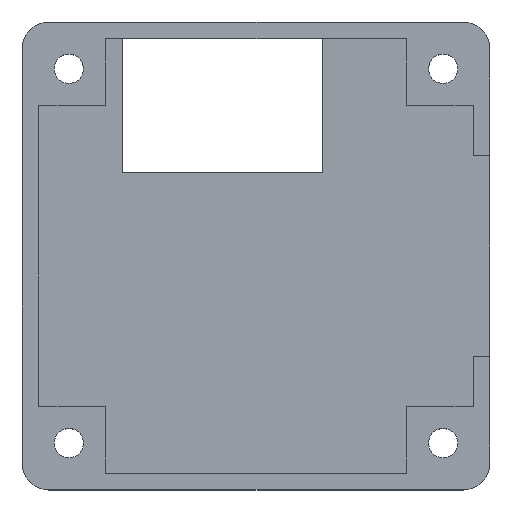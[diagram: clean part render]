
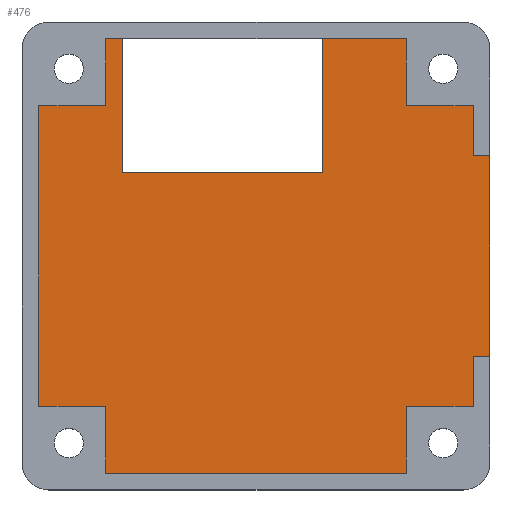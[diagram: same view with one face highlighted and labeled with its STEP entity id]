
A CAD part, top view. The second image highlights one B-rep face of the part: STEP entity #476.
In plain terms, the highlighted planar face has unit normal (0, 0, 1).
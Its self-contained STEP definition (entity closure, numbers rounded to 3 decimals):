
#12 = ORIENTED_EDGE ( 'NONE', *, *, #1660, .F. ) ;
#23 = CARTESIAN_POINT ( 'NONE',  ( 0., 18.11, 1. ) ) ;
#35 = CARTESIAN_POINT ( 'NONE',  ( -21.52, 0., 1. ) ) ;
#42 = VECTOR ( 'NONE', #745, 1000. ) ;
#44 = VECTOR ( 'NONE', #769, 1000. ) ;
#52 = LINE ( 'NONE', #346, #902 ) ;
#56 = EDGE_CURVE ( 'NONE', #327, #572, #345, .T. ) ;
#60 = DIRECTION ( 'NONE',  ( 0., 1., 0. ) ) ;
#63 = CARTESIAN_POINT ( 'NONE',  ( 5.98, 14.36, 1. ) ) ;
#95 = VECTOR ( 'NONE', #244, 1000. ) ;
#128 = EDGE_CURVE ( 'NONE', #684, #622, #814, .T. ) ;
#138 = VERTEX_POINT ( 'NONE', #567 ) ;
#145 = ORIENTED_EDGE ( 'NONE', *, *, #1729, .T. ) ;
#165 = LINE ( 'NONE', #1646, #1333 ) ;
#167 = LINE ( 'NONE', #35, #772 ) ;
#181 = ORIENTED_EDGE ( 'NONE', *, *, #218, .T. ) ;
#203 = PLANE ( 'NONE',  #1328 ) ;
#218 = EDGE_CURVE ( 'NONE', #1214, #1615, #1270, .T. ) ;
#230 = CARTESIAN_POINT ( 'NONE',  ( -5.27, 0., 1. ) ) ;
#244 = DIRECTION ( 'NONE',  ( 1., 0., 0. ) ) ;
#245 = ORIENTED_EDGE ( 'NONE', *, *, #810, .F. ) ;
#247 = CARTESIAN_POINT ( 'NONE',  ( -5.27, 23.11, 1. ) ) ;
#260 = CARTESIAN_POINT ( 'NONE',  ( 0., -4.39, 1. ) ) ;
#262 = VERTEX_POINT ( 'NONE', #63 ) ;
#280 = EDGE_CURVE ( 'NONE', #262, #572, #1258, .T. ) ;
#281 = DIRECTION ( 'NONE',  ( 1., 0., 0. ) ) ;
#299 = CARTESIAN_POINT ( 'NONE',  ( 5.98, 0., 1. ) ) ;
#327 = VERTEX_POINT ( 'NONE', #540 ) ;
#345 = LINE ( 'NONE', #895, #755 ) ;
#346 = CARTESIAN_POINT ( 'NONE',  ( -26.52, 0., 1. ) ) ;
#369 = ORIENTED_EDGE ( 'NONE', *, *, #651, .T. ) ;
#370 = DIRECTION ( 'NONE',  ( 0., 1., 0. ) ) ;
#374 = ORIENTED_EDGE ( 'NONE', *, *, #1060, .F. ) ;
#376 = CARTESIAN_POINT ( 'NONE',  ( 5.98, 0., 1. ) ) ;
#388 = DIRECTION ( 'NONE',  ( -1., 0., 0. ) ) ;
#396 = VERTEX_POINT ( 'NONE', #247 ) ;
#406 = VECTOR ( 'NONE', #418, 1000. ) ;
#418 = DIRECTION ( 'NONE',  ( 0., 1., 0. ) ) ;
#426 = ORIENTED_EDGE ( 'NONE', *, *, #510, .F. ) ;
#428 = CARTESIAN_POINT ( 'NONE',  ( 0.98, -9.39, 1. ) ) ;
#451 = CARTESIAN_POINT ( 'NONE',  ( 0.98, 0., 1. ) ) ;
#476 = ADVANCED_FACE ( 'NONE', ( #1295 ), #203, .T. ) ;
#480 = VERTEX_POINT ( 'NONE', #1570 ) ;
#484 = CARTESIAN_POINT ( 'NONE',  ( 0., 0., 1. ) ) ;
#490 = VECTOR ( 'NONE', #1504, 1000. ) ;
#495 = CARTESIAN_POINT ( 'NONE',  ( -26.52, 18.11, 1. ) ) ;
#510 = EDGE_CURVE ( 'NONE', #1694, #560, #1033, .T. ) ;
#533 = CARTESIAN_POINT ( 'NONE',  ( -21.52, -9.39, 1. ) ) ;
#540 = CARTESIAN_POINT ( 'NONE',  ( 7.23, -0.64, 1. ) ) ;
#550 = DIRECTION ( 'NONE',  ( 1., 0., 0. ) ) ;
#560 = VERTEX_POINT ( 'NONE', #1237 ) ;
#567 = CARTESIAN_POINT ( 'NONE',  ( 5.98, 18.11, 1. ) ) ;
#572 = VERTEX_POINT ( 'NONE', #1406 ) ;
#622 = VERTEX_POINT ( 'NONE', #1276 ) ;
#646 = ORIENTED_EDGE ( 'NONE', *, *, #1755, .T. ) ;
#649 = EDGE_CURVE ( 'NONE', #965, #622, #167, .T. ) ;
#651 = EDGE_CURVE ( 'NONE', #1603, #1214, #734, .T. ) ;
#660 = VERTEX_POINT ( 'NONE', #1371 ) ;
#679 = CARTESIAN_POINT ( 'NONE',  ( 5.98, -4.39, 1. ) ) ;
#684 = VERTEX_POINT ( 'NONE', #495 ) ;
#698 = LINE ( 'NONE', #299, #406 ) ;
#717 = ORIENTED_EDGE ( 'NONE', *, *, #780, .F. ) ;
#728 = DIRECTION ( 'NONE',  ( 0., 1., 0. ) ) ;
#733 = VECTOR ( 'NONE', #1146, 1000. ) ;
#734 = LINE ( 'NONE', #1288, #733 ) ;
#745 = DIRECTION ( 'NONE',  ( 0., -1., 0. ) ) ;
#747 = VERTEX_POINT ( 'NONE', #1062 ) ;
#755 = VECTOR ( 'NONE', #1436, 1000. ) ;
#761 = LINE ( 'NONE', #376, #1421 ) ;
#762 = EDGE_CURVE ( 'NONE', #262, #138, #761, .T. ) ;
#764 = DIRECTION ( 'NONE',  ( 1., 0., 0. ) ) ;
#765 = VERTEX_POINT ( 'NONE', #1317 ) ;
#769 = DIRECTION ( 'NONE',  ( 0., -1., 0. ) ) ;
#770 = EDGE_CURVE ( 'NONE', #396, #836, #1712, .T. ) ;
#772 = VECTOR ( 'NONE', #1395, 1000. ) ;
#780 = EDGE_CURVE ( 'NONE', #1603, #1415, #1049, .T. ) ;
#809 = DIRECTION ( 'NONE',  ( 1., 0., 0. ) ) ;
#810 = EDGE_CURVE ( 'NONE', #660, #747, #1728, .T. ) ;
#814 = LINE ( 'NONE', #23, #1676 ) ;
#833 = EDGE_CURVE ( 'NONE', #765, #327, #938, .T. ) ;
#836 = VERTEX_POINT ( 'NONE', #973 ) ;
#873 = CARTESIAN_POINT ( 'NONE',  ( -21.52, -4.39, 1. ) ) ;
#879 = CARTESIAN_POINT ( 'NONE',  ( 3.83, 14.36, 1. ) ) ;
#895 = CARTESIAN_POINT ( 'NONE',  ( 7.23, -0.64, 1. ) ) ;
#902 = VECTOR ( 'NONE', #60, 1000. ) ;
#918 = DIRECTION ( 'NONE',  ( 0., -1., 0. ) ) ;
#929 = VECTOR ( 'NONE', #388, 1000. ) ;
#931 = LINE ( 'NONE', #1474, #95 ) ;
#937 = ORIENTED_EDGE ( 'NONE', *, *, #649, .T. ) ;
#938 = LINE ( 'NONE', #1624, #490 ) ;
#965 = VERTEX_POINT ( 'NONE', #1648 ) ;
#973 = CARTESIAN_POINT ( 'NONE',  ( -5.27, 13.11, 1. ) ) ;
#977 = ORIENTED_EDGE ( 'NONE', *, *, #1703, .F. ) ;
#986 = LINE ( 'NONE', #1263, #1242 ) ;
#994 = VECTOR ( 'NONE', #281, 1000. ) ;
#1022 = ORIENTED_EDGE ( 'NONE', *, *, #1730, .T. ) ;
#1033 = LINE ( 'NONE', #1433, #42 ) ;
#1049 = LINE ( 'NONE', #1587, #1561 ) ;
#1059 = LINE ( 'NONE', #260, #929 ) ;
#1060 = EDGE_CURVE ( 'NONE', #480, #684, #52, .T. ) ;
#1062 = CARTESIAN_POINT ( 'NONE',  ( -20.27, 13.11, 1. ) ) ;
#1085 = ORIENTED_EDGE ( 'NONE', *, *, #280, .F. ) ;
#1102 = LINE ( 'NONE', #1368, #994 ) ;
#1121 = ORIENTED_EDGE ( 'NONE', *, *, #833, .T. ) ;
#1146 = DIRECTION ( 'NONE',  ( 1., 0., 0. ) ) ;
#1147 = DIRECTION ( 'NONE',  ( 1., 0., 0. ) ) ;
#1183 = DIRECTION ( 'NONE',  ( 0., 1., 0. ) ) ;
#1214 = VERTEX_POINT ( 'NONE', #428 ) ;
#1232 = EDGE_CURVE ( 'NONE', #396, #1694, #1102, .T. ) ;
#1237 = CARTESIAN_POINT ( 'NONE',  ( 0.98, 18.11, 1. ) ) ;
#1242 = VECTOR ( 'NONE', #1393, 1000. ) ;
#1258 = LINE ( 'NONE', #879, #1634 ) ;
#1263 = CARTESIAN_POINT ( 'NONE',  ( 0., 18.11, 1. ) ) ;
#1270 = LINE ( 'NONE', #451, #1724 ) ;
#1276 = CARTESIAN_POINT ( 'NONE',  ( -21.52, 18.11, 1. ) ) ;
#1277 = VERTEX_POINT ( 'NONE', #679 ) ;
#1288 = CARTESIAN_POINT ( 'NONE',  ( 0., -9.39, 1. ) ) ;
#1295 = FACE_OUTER_BOUND ( 'NONE', #1578, .T. ) ;
#1317 = CARTESIAN_POINT ( 'NONE',  ( 5.98, -0.64, 1. ) ) ;
#1328 = AXIS2_PLACEMENT_3D ( 'NONE', #484, #1583, #764 ) ;
#1333 = VECTOR ( 'NONE', #550, 1000. ) ;
#1368 = CARTESIAN_POINT ( 'NONE',  ( 0., 23.11, 1. ) ) ;
#1371 = CARTESIAN_POINT ( 'NONE',  ( -20.27, 23.11, 1. ) ) ;
#1393 = DIRECTION ( 'NONE',  ( -1., 0., 0. ) ) ;
#1395 = DIRECTION ( 'NONE',  ( 0., -1., 0. ) ) ;
#1406 = CARTESIAN_POINT ( 'NONE',  ( 7.23, 14.36, 1. ) ) ;
#1415 = VERTEX_POINT ( 'NONE', #873 ) ;
#1421 = VECTOR ( 'NONE', #1183, 1000. ) ;
#1433 = CARTESIAN_POINT ( 'NONE',  ( 0.98, 0., 1. ) ) ;
#1436 = DIRECTION ( 'NONE',  ( 0., 1., 0. ) ) ;
#1457 = CARTESIAN_POINT ( 'NONE',  ( -20.27, 0., 1. ) ) ;
#1465 = CARTESIAN_POINT ( 'NONE',  ( 0.98, -4.39, 1. ) ) ;
#1474 = CARTESIAN_POINT ( 'NONE',  ( 0., 13.11, 1. ) ) ;
#1488 = CARTESIAN_POINT ( 'NONE',  ( 0., 23.11, 1. ) ) ;
#1495 = ORIENTED_EDGE ( 'NONE', *, *, #56, .T. ) ;
#1502 = LINE ( 'NONE', #1488, #1707 ) ;
#1504 = DIRECTION ( 'NONE',  ( 1., 0., 0. ) ) ;
#1511 = ORIENTED_EDGE ( 'NONE', *, *, #770, .T. ) ;
#1524 = ORIENTED_EDGE ( 'NONE', *, *, #1232, .F. ) ;
#1538 = DIRECTION ( 'NONE',  ( 1., 0., 0. ) ) ;
#1544 = ORIENTED_EDGE ( 'NONE', *, *, #762, .T. ) ;
#1561 = VECTOR ( 'NONE', #370, 1000. ) ;
#1570 = CARTESIAN_POINT ( 'NONE',  ( -26.52, -4.39, 1. ) ) ;
#1577 = ORIENTED_EDGE ( 'NONE', *, *, #128, .F. ) ;
#1578 = EDGE_LOOP ( 'NONE', ( #1524, #1511, #977, #245, #1740, #937, #1577, #374, #646, #717, #369, #181, #12, #145, #1121, #1495, #1085, #1544, #1022, #426 ) ) ;
#1583 = DIRECTION ( 'NONE',  ( 0., 0., 1. ) ) ;
#1587 = CARTESIAN_POINT ( 'NONE',  ( -21.52, 0., 1. ) ) ;
#1601 = EDGE_CURVE ( 'NONE', #965, #660, #1502, .T. ) ;
#1603 = VERTEX_POINT ( 'NONE', #533 ) ;
#1615 = VERTEX_POINT ( 'NONE', #1465 ) ;
#1624 = CARTESIAN_POINT ( 'NONE',  ( 3.83, -0.64, 1. ) ) ;
#1632 = VECTOR ( 'NONE', #918, 1000. ) ;
#1634 = VECTOR ( 'NONE', #1538, 1000. ) ;
#1646 = CARTESIAN_POINT ( 'NONE',  ( 0., -4.39, 1. ) ) ;
#1648 = CARTESIAN_POINT ( 'NONE',  ( -21.52, 23.11, 1. ) ) ;
#1660 = EDGE_CURVE ( 'NONE', #1277, #1615, #1059, .T. ) ;
#1676 = VECTOR ( 'NONE', #1147, 1000. ) ;
#1694 = VERTEX_POINT ( 'NONE', #1739 ) ;
#1703 = EDGE_CURVE ( 'NONE', #747, #836, #931, .T. ) ;
#1707 = VECTOR ( 'NONE', #809, 1000. ) ;
#1712 = LINE ( 'NONE', #230, #1632 ) ;
#1724 = VECTOR ( 'NONE', #728, 1000. ) ;
#1728 = LINE ( 'NONE', #1457, #44 ) ;
#1729 = EDGE_CURVE ( 'NONE', #1277, #765, #698, .T. ) ;
#1730 = EDGE_CURVE ( 'NONE', #138, #560, #986, .T. ) ;
#1739 = CARTESIAN_POINT ( 'NONE',  ( 0.98, 23.11, 1. ) ) ;
#1740 = ORIENTED_EDGE ( 'NONE', *, *, #1601, .F. ) ;
#1755 = EDGE_CURVE ( 'NONE', #480, #1415, #165, .T. ) ;
